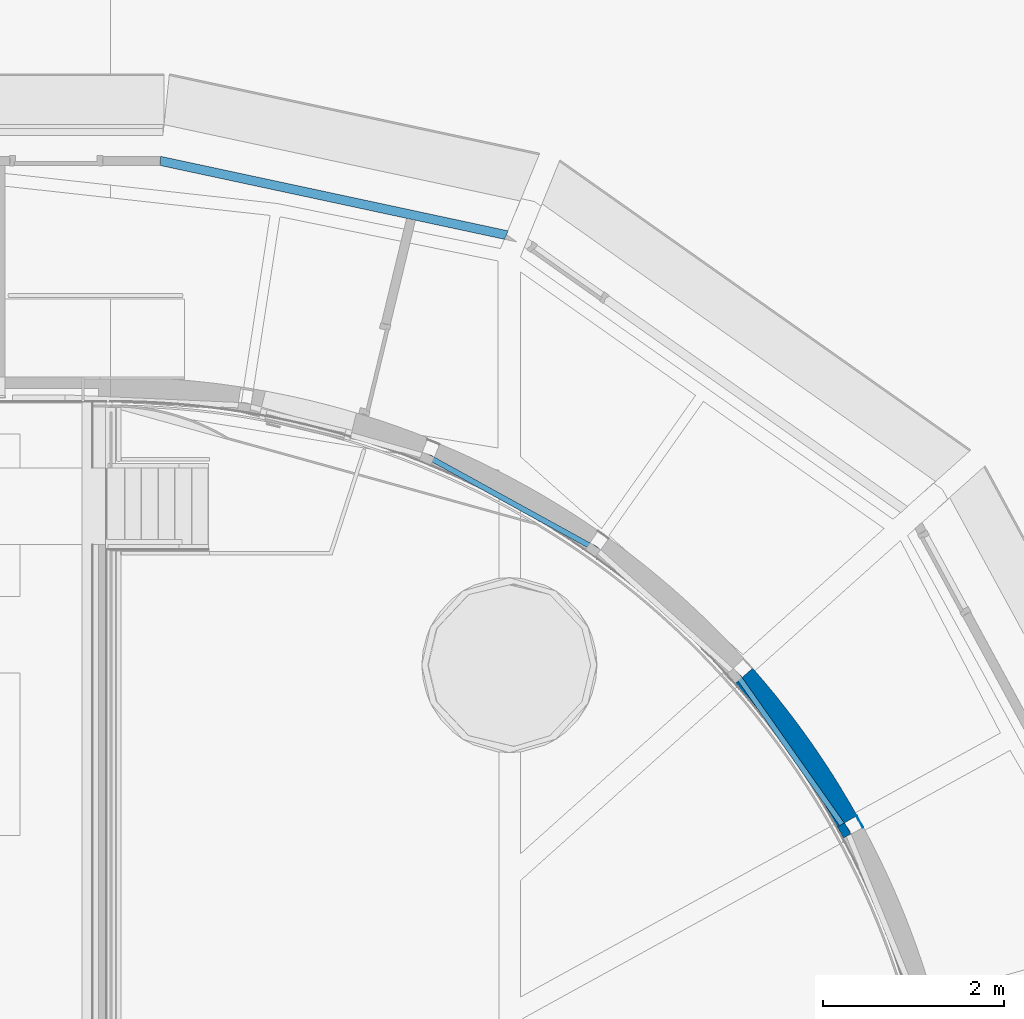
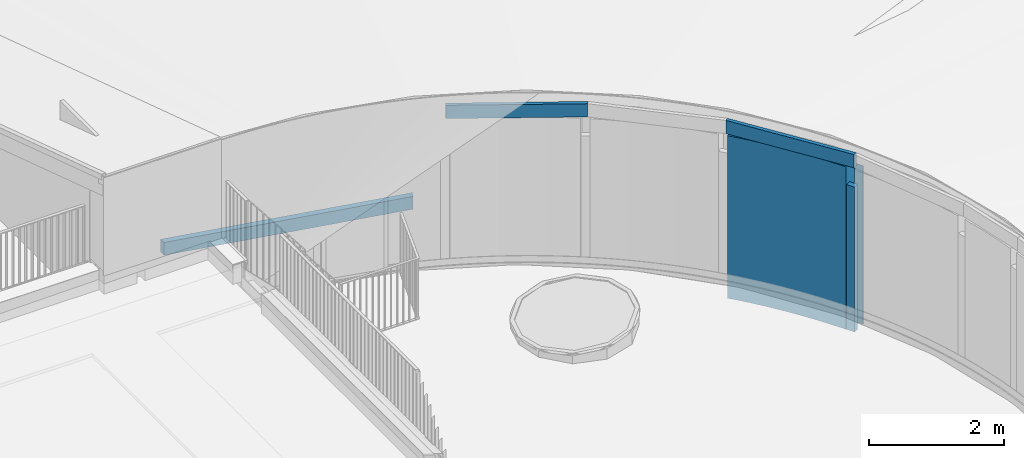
# One storey, part 34 of 66: 6 walls.
"""IFC2X3 building model written with IfcOpenShell, lengths in millimetres."""

from ifc_helpers import new_model, entity, si_unit, converted_unit, derived_unit, direction, frame, frame_2d, origin, place, context, subcontext, project, spatial, polyline, circle_curve, parameter, trimmed, segment, composite_curve, rectangle, outline, extrude, material, layer, layer_set, layer_usage, type_object, element, save


model = new_model("IFC2X3")

# Units and contexts
model_context = context("Model", 3, precision=0.01, world=origin(), true_north=direction((6.12303176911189e-17, 1.0)))
body_context = subcontext(model_context, "Body", "Model", "MODEL_VIEW")
ifc_project = project(units=[si_unit("LENGTHUNIT", "METRE", prefix="MILLI"), si_unit("AREAUNIT", "SQUARE_METRE"), si_unit("VOLUMEUNIT", "CUBIC_METRE"), converted_unit("PLANEANGLEUNIT", "DEGREE", entity("IfcRatioMeasure", 0.0174532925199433), si_unit("PLANEANGLEUNIT", "RADIAN"), dimensions=[0, 0, 0, 0, 0, 0, 0]), si_unit("MASSUNIT", "GRAM", prefix="KILO"), derived_unit("MASSDENSITYUNIT", [(si_unit("MASSUNIT", "GRAM", prefix="KILO"), 1), (si_unit("LENGTHUNIT", "METRE"), -3)]), derived_unit("MOMENTOFINERTIAUNIT", [(si_unit("LENGTHUNIT", "METRE"), 4)]), si_unit("TIMEUNIT", "SECOND"), si_unit("FREQUENCYUNIT", "HERTZ"), si_unit("THERMODYNAMICTEMPERATUREUNIT", "DEGREE_CELSIUS"), derived_unit("THERMALTRANSMITTANCEUNIT", [(si_unit("MASSUNIT", "GRAM", prefix="KILO"), 1), (si_unit("THERMODYNAMICTEMPERATUREUNIT", "KELVIN"), -1), (si_unit("TIMEUNIT", "SECOND"), -3)]), derived_unit("VOLUMETRICFLOWRATEUNIT", [(si_unit("LENGTHUNIT", "METRE"), 3), (si_unit("TIMEUNIT", "SECOND"), -1)]), si_unit("ELECTRICCURRENTUNIT", "AMPERE"), si_unit("ELECTRICVOLTAGEUNIT", "VOLT"), si_unit("POWERUNIT", "WATT"), si_unit("FORCEUNIT", "NEWTON", prefix="KILO"), si_unit("ILLUMINANCEUNIT", "LUX"), si_unit("LUMINOUSFLUXUNIT", "LUMEN"), si_unit("LUMINOUSINTENSITYUNIT", "CANDELA"), derived_unit("USERDEFINED", [(si_unit("MASSUNIT", "GRAM", prefix="KILO"), -1), (si_unit("LENGTHUNIT", "METRE"), -2), (si_unit("TIMEUNIT", "SECOND"), 3), (si_unit("LUMINOUSFLUXUNIT", "LUMEN"), 1)]), derived_unit("LINEARVELOCITYUNIT", [(si_unit("LENGTHUNIT", "METRE"), 1), (si_unit("TIMEUNIT", "SECOND"), -1)]), si_unit("PRESSUREUNIT", "PASCAL"), derived_unit("USERDEFINED", [(si_unit("LENGTHUNIT", "METRE"), -2), (si_unit("MASSUNIT", "GRAM", prefix="KILO"), 1), (si_unit("TIMEUNIT", "SECOND"), -2)]), derived_unit("LINEARFORCEUNIT", [(si_unit("MASSUNIT", "GRAM", prefix="KILO"), 1), (si_unit("LENGTHUNIT", "METRE"), 1), (si_unit("TIMEUNIT", "SECOND"), -2), (si_unit("LENGTHUNIT", "METRE"), -1)]), derived_unit("PLANARFORCEUNIT", [(si_unit("MASSUNIT", "GRAM", prefix="KILO"), 1), (si_unit("LENGTHUNIT", "METRE"), 1), (si_unit("TIMEUNIT", "SECOND"), -2), (si_unit("LENGTHUNIT", "METRE"), -2)])], contexts=[model_context])

# Site, building, storey
site_placement = place(None, origin())
site = spatial("IfcSite", under=ifc_project, at=site_placement, Name="Default", CompositionType="ELEMENT")
building_placement = place(site_placement, origin())
building = spatial("IfcBuilding", under=site, at=building_placement, Name="-", CompositionType="ELEMENT")
storey_placement = place(building_placement, frame((0.0, 0.0, 3070.0)))
storey = spatial("IfcBuildingStorey", under=building, at=storey_placement, Name="01 eerste verdieping", CompositionType="ELEMENT", Elevation=3070.00000000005)

# Walls
ifc_material_1 = material(Name="NLRS_f7_gipsplaat_gen")
ifc_layer_1 = layer(ifc_material_1, 12.5)
ifc_material_2 = material(Name="NLRS_m1_isolatie")
ifc_layer_2 = layer(ifc_material_2, 75.0)
ifc_layer_3 = layer(ifc_material_1, 12.5)
ifc_layer_set_1 = layer_set([ifc_layer_1, ifc_layer_2, ifc_layer_3], Name="Basic Wall:NLRS_21_WA_Metalstud 100mm")
ifc_layer_usage_1 = layer_usage(ifc_layer_set_1, "AXIS2", "NEGATIVE", 50.0)
wall_type_1 = type_object("IfcWallType", Name="Basic Wall:NLRS_21_WA_Metalstud 100mm", PredefinedType="STANDARD", material=ifc_layer_set_1)
wall_1_placement = place(storey_placement, frame((51189.4776688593, 31474.4625994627, -370.0), z_axis=(0.0, 0.0, 1.0), x_axis=(0.977777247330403, -0.209646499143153, 0.0)))
element("IfcWallStandardCase", 1, at=wall_1_placement, inside=storey, type_object=wall_type_1, material=ifc_layer_usage_1, Name="Basic Wall:NLRS_21_WA_Metalstud 100mm", ObjectType="Basic Wall:NLRS_21_WA_Metalstud 100mm", context=body_context, shape_type="SweptSolid", body=[
    extrude(outline(polyline([(3909.63368516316, -50.0), (3927.42089206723, 50.0), (0.0, 50.0), (21.4411308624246, -50.0), (3909.63368516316, -50.0)])), origin(), (0.0, 0.0, 1.0), 231.000000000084),
])
ifc_material_3 = material(Name="NLRS_i4_hout_multiplex")
ifc_layer_4 = layer(ifc_material_3, 10.0)
ifc_layer_5 = layer(ifc_material_2, 235.0)
ifc_layer_6 = layer(ifc_material_3, 10.0)
ifc_layer_set_2 = layer_set([ifc_layer_4, ifc_layer_5, ifc_layer_6], Name="Basic Wall:NLRS_21_WA_HSB-wand_268mm (zonder gips)")
ifc_layer_usage_2 = layer_usage(ifc_layer_set_2, "AXIS2", "NEGATIVE", 127.5)
wall_type_2 = type_object("IfcWallType", Name="Basic Wall:NLRS_21_WA_HSB-wand_268mm (zonder gips)", PredefinedType="STANDARD", material=ifc_layer_set_2)
wall_2_placement = place(storey_placement, frame((58786.2592684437, 24174.0834405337, 100.0)))
element("IfcWallStandardCase", 2, at=wall_2_placement, inside=storey, type_object=wall_type_2, material=ifc_layer_usage_2, Name="Basic Wall:NLRS_21_WA_HSB-wand_268mm (zonder gips)", ObjectType="Basic Wall:NLRS_21_WA_HSB-wand_268mm (zonder gips)", context=body_context, shape_type="SweptSolid", body=[
    extrude(outline(composite_curve([segment(trimmed(circle_curve(frame_2d((-8139.69660643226, -4558.02371157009), x_axis=(1.0, 0.0)), 9201.5), [parameter(29.2477203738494)], [parameter(41.3731517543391)], True, "PARAMETER"), False, "CONTINUOUS"), segment(polyline([(-111.245719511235, -62.2947822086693), (111.245719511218, 62.2947822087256)]), True, "CONTINUOUS"), segment(trimmed(circle_curve(frame_2d((-8139.69660643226, -4558.02371157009), x_axis=(1.0, 0.0)), 9456.5), [parameter(29.2477203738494)], [parameter(41.3731517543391)], True, "PARAMETER"), True, "CONTINUOUS"), segment(polyline([(-1043.34163432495, 1692.34734620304), (-1234.69895657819, 1523.8024702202)]), True, "CONTINUOUS")], self_intersect=False)), origin(), (0.0, 0.0, 1.0), 2945.0),
])
ifc_material_4 = material(Name="NLRS_n7_isolatie PIR_gen")
ifc_layer_7 = layer(ifc_material_4, 60.0)
ifc_layer_set_3 = layer_set([ifc_layer_7], Name="Basic Wall:NLRS_22_WA_LB_isolatie PIR 60mm")
ifc_layer_usage_3 = layer_usage(ifc_layer_set_3, "AXIS2", "NEGATIVE", 30.0)
wall_type_3 = type_object("IfcWallType", Name="Basic Wall:NLRS_22_WA_LB_isolatie PIR 60mm", PredefinedType="STANDARD", material=ifc_layer_set_3)
wall_3_placement = place(storey_placement, frame((54162.8674451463, 28199.4228313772, 3045.0), z_axis=(0.0, 0.0, 1.0), x_axis=(0.876008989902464, -0.482294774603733, 0.0)))
element("IfcWallStandardCase", 3, at=wall_3_placement, inside=storey, type_object=wall_type_3, material=ifc_layer_usage_3, Name="Basic Wall:NLRS_22_WA_LB_isolatie PIR 60mm", ObjectType="Basic Wall:NLRS_22_WA_LB_isolatie PIR 60mm", context=body_context, shape_type="SweptSolid", body=[
    extrude(outline(polyline([(2111.91045888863, -30.0), (2118.77687015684, 30.0), (0.0, 30.0), (6.86047039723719, -30.0), (2111.91045888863, -30.0)])), origin(), (0.0, 0.0, 1.0), 240.000000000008),
])
ifc_layer_usage_4 = layer_usage(ifc_layer_set_3, "AXIS2", "NEGATIVE", 30.0)
wall_4_placement = place(storey_placement, frame((57582.0011094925, 25775.4562658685, 3045.0), z_axis=(0.0, 0.0, 1.0), x_axis=(0.574635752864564, -0.818409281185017, 0.0)))
element("IfcWallStandardCase", 4, at=wall_4_placement, inside=storey, type_object=wall_type_3, material=ifc_layer_usage_4, Name="Basic Wall:NLRS_22_WA_LB_isolatie PIR 60mm", ObjectType="Basic Wall:NLRS_22_WA_LB_isolatie PIR 60mm", context=body_context, shape_type="SweptSolid", body=[
    extrude(outline(polyline([(2104.40182775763, -30.0), (2111.1859430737, 30.0), (0.0, 30.0), (6.85385814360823, -30.0), (2104.40182775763, -30.0)])), origin(), (0.0, 0.0, 1.0), 240.000000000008),
])
ifc_layer_8 = layer(ifc_material_4, 90.0)
ifc_layer_set_4 = layer_set([ifc_layer_8], Name="Basic Wall:NLRS_22_WA_LB_isolatie PIR 90mm")
ifc_layer_usage_5 = layer_usage(ifc_layer_set_4, "AXIS2", "NEGATIVE", 45.0)
wall_type_4 = type_object("IfcWallType", Name="Basic Wall:NLRS_22_WA_LB_isolatie PIR 90mm", PredefinedType="STANDARD", material=ifc_layer_set_4)
wall_5_placement = place(storey_placement, frame((58787.9259840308, 24012.8500479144, 100.0), z_axis=(0.0, 0.0, 1.0), x_axis=(-0.486785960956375, 0.873521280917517, 0.0)))
element("IfcWallStandardCase", 5, at=wall_5_placement, inside=storey, type_object=wall_type_4, material=ifc_layer_usage_5, Name="Basic Wall:NLRS_22_WA_LB_isolatie PIR 90mm", ObjectType="Basic Wall:NLRS_22_WA_LB_isolatie PIR 90mm", context=body_context, shape_type="SweptSolid", body=[
    extrude(rectangle(XDim=139.863659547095, YDim=90.0000000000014, at=frame_2d((69.9318297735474, 0.0), x_axis=(-1.0, 0.0))), origin(), (0.0, 0.0, 1.0), 2625.73599912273),
])
ifc_material_5 = material(Name="NLRS_i4_hout_multiplex wit")
ifc_layer_9 = layer(ifc_material_5, 9.0)
ifc_layer_set_5 = layer_set([ifc_layer_9], Name="Basic Wall:NLRS_41_WA_plaatmateriaal 9mm_gen_aly")
ifc_layer_usage_6 = layer_usage(ifc_layer_set_5, "AXIS2", "NEGATIVE", 4.5)
wall_type_5 = type_object("IfcWallType", Name="Basic Wall:NLRS_41_WA_plaatmateriaal 9mm_gen_aly", PredefinedType="STANDARD", material=ifc_layer_set_5)
wall_6_placement = place(storey_placement, frame((58892.6669087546, 24233.6290624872, 100.0), z_axis=(0.0, 0.0, 1.0), x_axis=(0.481811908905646, -0.876274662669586, 0.0)))
element("IfcWallStandardCase", 6, at=wall_6_placement, inside=storey, type_object=wall_type_5, material=ifc_layer_usage_6, Name="Basic Wall:NLRS_41_WA_plaatmateriaal 9mm_gen_aly", ObjectType="Basic Wall:NLRS_41_WA_plaatmateriaal 9mm_gen_aly", context=body_context, shape_type="SweptSolid", body=[
    extrude(rectangle(XDim=146.375563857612, YDim=9.00000000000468, at=frame_2d((73.1877819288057, -1.77635683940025e-15), x_axis=(-1.0, 0.0))), origin(), (0.0, 0.0, 1.0), 2870.0),
])

save(model, "model.ifc")
